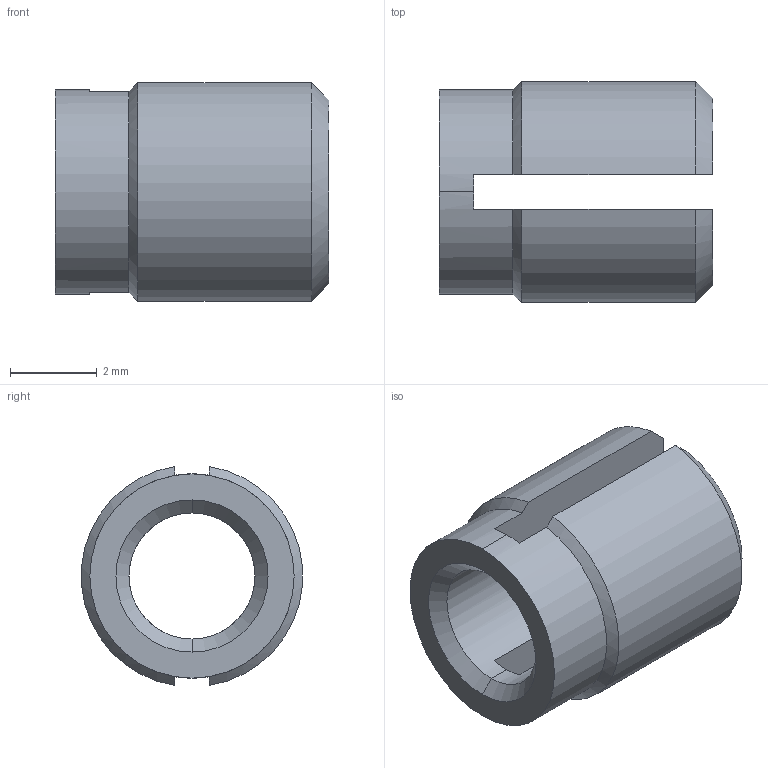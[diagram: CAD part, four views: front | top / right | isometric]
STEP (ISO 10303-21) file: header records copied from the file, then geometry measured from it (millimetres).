
FILE_DESCRIPTION (( 'STEP AP203' ), '1' );
FILE_NAME ('FSUK-EXP-M03.5-S.STEP', '2021-04-15T13:41:19', ( '' ), ( '' ), 'SwSTEP 2.0', 'SolidWorks 2021', '' );
FILE_SCHEMA (( 'CONFIG_CONTROL_DESIGN' ));
Length unit declared in the file: millimetre
Products named in the file (1): FSUK-EXP-M03.5-S
Bounding box: 6.3 x 5.08 x 5.04 mm (x, y, z)
Volume: 70.2 mm3; surface area: 180.9 mm2
Topology: 1 solids, 1 shells, 23 faces, 64 edges, 42 vertices
Faces by surface type: plane 9, cone 8, cylinder 6
Entity records: 841 total; most frequent: CARTESIAN_POINT 166, ORIENTED_EDGE 128, DIRECTION 126, EDGE_CURVE 64, AXIS2_PLACEMENT_3D 50, VERTEX_POINT 42, VECTOR 26, LINE 26
